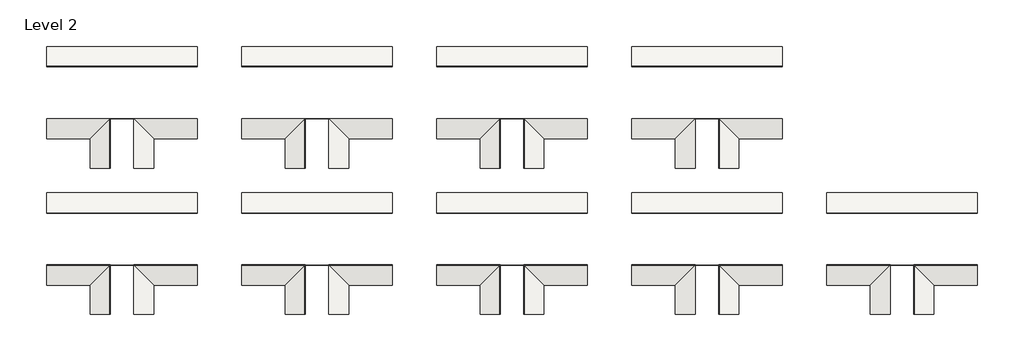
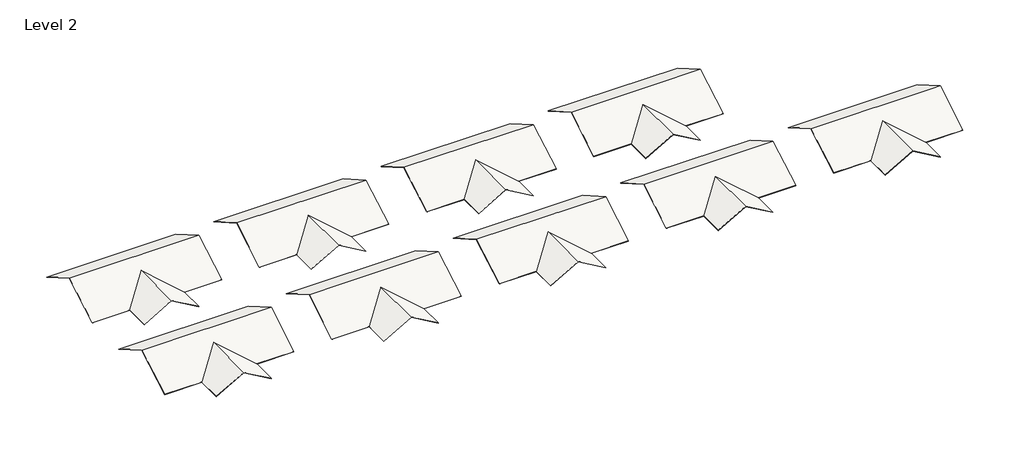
# One storey, incomplete: 9 roofs.
"""IFC4 building model written with IfcOpenShell, lengths in millimetres."""

import ifcopenshell
import ifcopenshell.guid

model = None  # the IFC model being written
_history = None  # IfcOwnerHistory: only IFC2X3 demands one
_inside = {}  # id of a spatial element -> (the spatial element, [elements in it])
_under = {}  # id of a project, library or spatial element -> (it, [spatial elements below it])
_declared = {}  # id of a project -> (the project, [libraries it declares])
_typed = {}  # id of a type object -> (the type object, [elements of that type])
_made_of = {}  # id of a material, layer set ... -> (it, [elements and type objects made of it])


def new_model(schema):
    """Start an empty IFC model of exactly this schema.

    Asked for "IFC4X3", IfcOpenShell would pick the latest addendum, in which some entities
    have other attributes; the version numbers below select the first issue.
    IFC2X3 requires an IfcOwnerHistory on every rooted entity: one is made here for all.
    """
    global model, _history
    if schema == "IFC4X3":
        model = ifcopenshell.file(schema_version=(4, 3, 0, 0))
    else:
        model = ifcopenshell.file(schema=schema)
    _inside.clear()
    _under.clear()
    _declared.clear()
    _typed.clear()
    _made_of.clear()
    _history = None
    if model.schema == "IFC2X3":
        org = make("IfcOrganization", Name="unknown")
        user = make(
            "IfcPersonAndOrganization",
            ThePerson=make("IfcPerson", FamilyName="unknown"),
            TheOrganization=org,
        )
        app = make(
            "IfcApplication",
            ApplicationDeveloper=org,
            Version="unknown",
            ApplicationFullName="unknown",
            ApplicationIdentifier="unknown",
        )
        _history = make(
            "IfcOwnerHistory",
            OwningUser=user,
            OwningApplication=app,
            ChangeAction="ADDED",
            CreationDate=0,
        )
    return model


def make(cls, **values):
    """One entity of the class cls with the attributes given. An attribute that is None is left unset."""
    return model.create_entity(
        cls, **{name: value for name, value in values.items() if value is not None}
    )


def rooted(cls, **values):
    """An entity with a GlobalId (a new one), such as an element, a storey or a relation."""
    return make(cls, GlobalId=ifcopenshell.guid.new(), OwnerHistory=_history, **values)


def si_unit(unit_type, name, prefix=None):
    """IfcSIUnit, for example si_unit("LENGTHUNIT", "METRE", prefix="MILLI")."""
    return make("IfcSIUnit", UnitType=unit_type, Prefix=prefix, Name=name)


def assignment(units):
    """IfcUnitAssignment: the units of a project."""
    return None if units is None else make("IfcUnitAssignment", Units=units)


def point(xyz):
    """IfcCartesianPoint."""
    return None if xyz is None else make("IfcCartesianPoint", Coordinates=xyz)


def direction(xyz):
    """IfcDirection."""
    return None if xyz is None else make("IfcDirection", DirectionRatios=xyz)


def frame(location, z_axis=None, x_axis=None):
    """IfcAxis2Placement3D, a coordinate frame: its origin and axes. An axis left out is left unset."""
    return make(
        "IfcAxis2Placement3D",
        Location=point(location),
        Axis=direction(z_axis),
        RefDirection=direction(x_axis),
    )


def origin():
    """The frame at (0, 0, 0) with its axes left unset."""
    return frame((0.0, 0.0, 0.0))


def place(relative_to, where):
    """IfcLocalPlacement: puts the frame where relative to a parent placement (None: the world)."""
    return make(
        "IfcLocalPlacement", PlacementRelTo=relative_to, RelativePlacement=where
    )


def context(
    kind, dimensions, precision=None, world=None, true_north=None, identifier=None
):
    """IfcGeometricRepresentationContext, for example the 3D "Model" context."""
    return make(
        "IfcGeometricRepresentationContext",
        ContextIdentifier=identifier,
        ContextType=kind,
        CoordinateSpaceDimension=dimensions,
        Precision=precision,
        WorldCoordinateSystem=world,
        TrueNorth=true_north,
    )


def project(units=None, contexts=None):
    """IfcProject with its units and contexts."""
    return rooted(
        "IfcProject",
        Name="project",
        RepresentationContexts=contexts,
        UnitsInContext=assignment(units),
    )


def spatial(cls, under=None, at=None, **own):
    """A site, building, storey or space (cls), placed at a placement, below another one or the project."""
    s = rooted(cls, ObjectPlacement=at, **own)
    if under is not None:
        _under.setdefault(under.id(), (under, []))[1].append(s)
    return s


def faces_of(points, faces, orient=None, outer=None):
    """IfcFace entities. A face is a list of loops; a loop is a list of indices into points, from 0.

    orient and outer hold one flag for each loop. By default every Orientation is true, the
    first loop of a face is its IfcFaceOuterBound and the others are IfcFaceBound.
    """
    made = []
    for i, loops in enumerate(faces):
        bounds = []
        for j, loop in enumerate(loops):
            is_outer = j == 0 if outer is None else outer[i][j]
            bounds.append(
                make(
                    "IfcFaceOuterBound" if is_outer else "IfcFaceBound",
                    Bound=make("IfcPolyLoop", Polygon=[points[k] for k in loop]),
                    Orientation=True if orient is None else orient[i][j],
                )
            )
        made.append(make("IfcFace", Bounds=bounds))
    return made


def faceted_brep(points, faces, orient=None, outer=None, voids=None):
    """IfcFacetedBrep: a solid bounded by flat faces; with voids (closed shells), ...WithVoids."""
    shared = [point(p) for p in points]
    hull = make("IfcClosedShell", CfsFaces=faces_of(shared, faces, orient, outer))
    if voids is None:
        return make("IfcFacetedBrep", Outer=hull)
    return make(
        "IfcFacetedBrepWithVoids",
        Outer=hull,
        Voids=[
            make(cls, CfsFaces=faces_of(shared, fs, o, b)) for cls, fs, o, b in voids
        ],
    )


def shape(context_of_items, identifier, shape_type, items):
    """IfcShapeRepresentation: the items that make up one representation, for example the "Body"."""
    return make(
        "IfcShapeRepresentation",
        ContextOfItems=context_of_items,
        RepresentationIdentifier=identifier,
        RepresentationType=shape_type,
        Items=items,
    )


def made_of(thing, what):
    """Note that an element or type object is made of a material, layer set ...; save() writes the relation."""
    if what is not None:
        _made_of.setdefault(what.id(), (what, []))[1].append(thing)
    return thing


def element(
    cls,
    number,
    at=None,
    inside=None,
    cuts=None,
    type_object=None,
    material=None,
    context=None,
    identifier="Body",
    shape_type=None,
    held_by="IfcProductDefinitionShape",
    body=None,
    shapes=None,
    **own,
):
    """One element of the class cls, such as IfcWall. Its Tag is "e" and its number.

    at: its placement. inside: the storey or other place that contains it. cuts: it is an
    opening in that element (IfcRelVoidsElement). A single representation is given by context,
    identifier, shape_type and body (its items); several are given by shapes. held_by: the class
    of the entity that holds the representations. save() writes the other relations.
    """
    e = rooted(cls, Tag="e%d" % number, ObjectPlacement=at, **own)
    if body is not None:
        shapes = [shape(context, identifier, shape_type, body)]
    if shapes is not None:
        e.Representation = make(held_by, Representations=shapes)
    if inside is not None:
        _inside.setdefault(inside.id(), (inside, []))[1].append(e)
    if cuts is not None:
        rooted(
            "IfcRelVoidsElement", RelatingBuildingElement=cuts, RelatedOpeningElement=e
        )
    if type_object is not None:
        _typed.setdefault(type_object.id(), (type_object, []))[1].append(e)
    return made_of(e, material)


def aggregate(whole, parts):
    """IfcRelAggregates: a whole, such as a stair, and the parts it consists of."""
    return rooted("IfcRelAggregates", RelatingObject=whole, RelatedObjects=parts)


def save(model, path):
    """Write the relations noted so far, then the file.

    IfcRelAggregates (storeys below a building ...), IfcRelContainedInSpatialStructure (elements
    in a storey), IfcRelDefinesByType, IfcRelAssociatesMaterial and IfcRelDeclares: one each for
    every whole, place, type object, material and project.
    """
    for whole, parts in _under.values():
        aggregate(whole, parts)
    for where, things in _inside.values():
        rooted(
            "IfcRelContainedInSpatialStructure",
            RelatedElements=things,
            RelatingStructure=where,
        )
    for kind, things in _typed.values():
        rooted("IfcRelDefinesByType", RelatedObjects=things, RelatingType=kind)
    for what, things in _made_of.values():
        rooted("IfcRelAssociatesMaterial", RelatedObjects=things, RelatingMaterial=what)
    for by, libraries in _declared.values():
        rooted("IfcRelDeclares", RelatingContext=by, RelatedDefinitions=libraries)
    model.write(path)


model = new_model("IFC4")

# Units and contexts
model_context = context("Model", 3, world=origin())
ifc_project = project(units=[si_unit("LENGTHUNIT", "METRE", prefix="MILLI")], contexts=[model_context])

# Site, building, storey
site = spatial("IfcSite", under=ifc_project)
building = spatial("IfcBuilding", under=site)
storey = spatial("IfcBuildingStorey", under=building, Name="Level 2", Elevation=4000.0)

# Roofs
placement = place(None, origin())
element("IfcRoof", 1, ObjectType="PREFA Roof Tile - 01 P.10 Brown", at=placement, inside=storey, context=model_context, shape_type="Brep", body=[
    faceted_brep([(-27036.2332588, 245.4798849, 6730.8667733), (-27036.2332588, 4975.4798849, 4000.0), (-11576.2332588, 4975.4798849, 4000.0), (-11576.2332588, 245.4798849, 6730.8667733), (-27036.2332588, -4484.5201151, 4000.0), (-11576.2332588, -4484.5201151, 4000.0), (-16036.2332588, -4484.5201151, 4000.0), (-19306.2332588, -1214.5201151, 5887.9353802), (-22576.2332588, -4484.5201151, 4000.0), (-27036.2332588, 4975.4798849, 4023.0940108), (-27036.2332588, 245.4798849, 6753.960784), (-11576.2332588, 245.4798849, 6753.960784), (-11576.2332588, 4975.4798849, 4023.0940108), (-27036.2332588, -4484.5201151, 4023.0940108), (-22576.2332588, -4484.5201151, 4023.0940108), (-19306.2332588, -1214.5201151, 5911.029391), (-16036.2332588, -4484.5201151, 4023.0940108), (-11576.2332588, -4484.5201151, 4023.0940108), (-22576.2332588, -7484.5201151, 4000.0), (-19306.2332588, -7484.5201151, 5887.9353802), (-16036.2332588, -7484.5201151, 4000.0), (-22576.2332588, -7484.5201151, 4023.0940108), (-19306.2332588, -7484.5201151, 5911.029391), (-16036.2332588, -7484.5201151, 4023.0940108)], [[[0, 1, 2, 3]], [[4, 0, 3, 5, 6, 7, 8]], [[9, 10, 11, 12]], [[13, 14, 15, 16, 17, 11, 10]], [[5, 17, 16, 6]], [[1, 9, 12, 2]], [[12, 11, 17, 5, 3, 2]], [[18, 8, 7, 19]], [[6, 20, 19, 7]], [[14, 21, 22, 15]], [[23, 16, 15, 22]], [[8, 14, 13, 4]], [[18, 21, 14, 8]], [[6, 16, 23, 20]], [[13, 10, 9, 1, 0, 4]], [[23, 22, 21, 18, 19, 20]]]),
])
element("IfcRoof", 2, ObjectType="PREFA Roof Tile - 02 P.10 Anthracite", at=placement, inside=storey, context=model_context, shape_type="Brep", body=[
    faceted_brep([(-7036.2332588, 245.4798849, 6730.8667733), (-7036.2332588, 4975.4798849, 4000.0), (8423.7667412, 4975.4798849, 4000.0), (8423.7667412, 245.4798849, 6730.8667733), (-7036.2332588, -4484.5201151, 4000.0), (8423.7667412, -4484.5201151, 4000.0), (3963.7667412, -4484.5201151, 4000.0), (693.7667412, -1214.5201151, 5887.9353802), (-2576.2332588, -4484.5201151, 4000.0), (-7036.2332588, 4975.4798849, 4023.0940108), (-7036.2332588, 245.4798849, 6753.960784), (8423.7667412, 245.4798849, 6753.960784), (8423.7667412, 4975.4798849, 4023.0940108), (-7036.2332588, -4484.5201151, 4023.0940108), (-2576.2332588, -4484.5201151, 4023.0940108), (693.7667412, -1214.5201151, 5911.029391), (3963.7667412, -4484.5201151, 4023.0940108), (8423.7667412, -4484.5201151, 4023.0940108), (-2576.2332588, -7484.5201151, 4000.0), (693.7667412, -7484.5201151, 5887.9353802), (3963.7667412, -7484.5201151, 4000.0), (-2576.2332588, -7484.5201151, 4023.0940108), (693.7667412, -7484.5201151, 5911.029391), (3963.7667412, -7484.5201151, 4023.0940108)], [[[0, 1, 2, 3]], [[4, 0, 3, 5, 6, 7, 8]], [[9, 10, 11, 12]], [[13, 14, 15, 16, 17, 11, 10]], [[5, 17, 16, 6]], [[1, 9, 12, 2]], [[12, 11, 17, 5, 3, 2]], [[18, 8, 7, 19]], [[6, 20, 19, 7]], [[14, 21, 22, 15]], [[23, 16, 15, 22]], [[8, 14, 13, 4]], [[18, 21, 14, 8]], [[6, 16, 23, 20]], [[13, 10, 9, 1, 0, 4]], [[23, 22, 21, 18, 19, 20]]]),
])
element("IfcRoof", 3, ObjectType="PREFA Roof Tile - 03 P.10 Black", at=placement, inside=storey, context=model_context, shape_type="Brep", body=[
    faceted_brep([(12963.7667412, 245.4798849, 6730.8667733), (12963.7667412, 4975.4798849, 4000.0), (28423.7667412, 4975.4798849, 4000.0), (28423.7667412, 245.4798849, 6730.8667733), (12963.7667412, -4484.5201151, 4000.0), (28423.7667412, -4484.5201151, 4000.0), (23963.7667412, -4484.5201151, 4000.0), (20693.7667412, -1214.5201151, 5887.9353802), (17423.7667412, -4484.5201151, 4000.0), (12963.7667412, 4975.4798849, 4023.0940108), (12963.7667412, 245.4798849, 6753.960784), (28423.7667412, 245.4798849, 6753.960784), (28423.7667412, 4975.4798849, 4023.0940108), (12963.7667412, -4484.5201151, 4023.0940108), (17423.7667412, -4484.5201151, 4023.0940108), (20693.7667412, -1214.5201151, 5911.029391), (23963.7667412, -4484.5201151, 4023.0940108), (28423.7667412, -4484.5201151, 4023.0940108), (17423.7667412, -7484.5201151, 4000.0), (20693.7667412, -7484.5201151, 5887.9353802), (23963.7667412, -7484.5201151, 4000.0), (17423.7667412, -7484.5201151, 4023.0940108), (20693.7667412, -7484.5201151, 5911.029391), (23963.7667412, -7484.5201151, 4023.0940108)], [[[0, 1, 2, 3]], [[4, 0, 3, 5, 6, 7, 8]], [[9, 10, 11, 12]], [[13, 14, 15, 16, 17, 11, 10]], [[5, 17, 16, 6]], [[1, 9, 12, 2]], [[12, 11, 17, 5, 3, 2]], [[18, 8, 7, 19]], [[6, 20, 19, 7]], [[14, 21, 22, 15]], [[23, 16, 15, 22]], [[8, 14, 13, 4]], [[18, 21, 14, 8]], [[6, 16, 23, 20]], [[13, 10, 9, 1, 0, 4]], [[23, 22, 21, 18, 19, 20]]]),
])
element("IfcRoof", 4, ObjectType="PREFA Roof Tile - 04 P.10 Brick Red", at=placement, inside=storey, context=model_context, shape_type="Brep", body=[
    faceted_brep([(32963.7667412, 245.4798849, 6730.8667733), (32963.7667412, 4975.4798849, 4000.0), (48423.7667412, 4975.4798849, 4000.0), (48423.7667412, 245.4798849, 6730.8667733), (32963.7667412, -4484.5201151, 4000.0), (48423.7667412, -4484.5201151, 4000.0), (43963.7667412, -4484.5201151, 4000.0), (40693.7667412, -1214.5201151, 5887.9353802), (37423.7667412, -4484.5201151, 4000.0), (32963.7667412, 4975.4798849, 4023.0940108), (32963.7667412, 245.4798849, 6753.960784), (48423.7667412, 245.4798849, 6753.960784), (48423.7667412, 4975.4798849, 4023.0940108), (32963.7667412, -4484.5201151, 4023.0940108), (37423.7667412, -4484.5201151, 4023.0940108), (40693.7667412, -1214.5201151, 5911.029391), (43963.7667412, -4484.5201151, 4023.0940108), (48423.7667412, -4484.5201151, 4023.0940108), (37423.7667412, -7484.5201151, 4000.0), (40693.7667412, -7484.5201151, 5887.9353802), (43963.7667412, -7484.5201151, 4000.0), (37423.7667412, -7484.5201151, 4023.0940108), (40693.7667412, -7484.5201151, 5911.029391), (43963.7667412, -7484.5201151, 4023.0940108)], [[[0, 1, 2, 3]], [[4, 0, 3, 5, 6, 7, 8]], [[9, 10, 11, 12]], [[13, 14, 15, 16, 17, 11, 10]], [[5, 17, 16, 6]], [[1, 9, 12, 2]], [[12, 11, 17, 5, 3, 2]], [[18, 8, 7, 19]], [[6, 20, 19, 7]], [[14, 21, 22, 15]], [[23, 16, 15, 22]], [[8, 14, 13, 4]], [[18, 21, 14, 8]], [[6, 16, 23, 20]], [[13, 10, 9, 1, 0, 4]], [[23, 22, 21, 18, 19, 20]]]),
])
element("IfcRoof", 5, ObjectType="PREFA Roof Tile - 05 P.10 Oxide Red", at=placement, inside=storey, context=model_context, shape_type="Brep", body=[
    faceted_brep([(52963.7667412, 245.4798849, 6730.8667733), (52963.7667412, 4975.4798849, 4000.0), (68423.7667412, 4975.4798849, 4000.0), (68423.7667412, 245.4798849, 6730.8667733), (52963.7667412, -4484.5201151, 4000.0), (68423.7667412, -4484.5201151, 4000.0), (63963.7667412, -4484.5201151, 4000.0), (60693.7667412, -1214.5201151, 5887.9353802), (57423.7667412, -4484.5201151, 4000.0), (52963.7667412, 4975.4798849, 4023.0940108), (52963.7667412, 245.4798849, 6753.960784), (68423.7667412, 245.4798849, 6753.960784), (68423.7667412, 4975.4798849, 4023.0940108), (52963.7667412, -4484.5201151, 4023.0940108), (57423.7667412, -4484.5201151, 4023.0940108), (60693.7667412, -1214.5201151, 5911.029391), (63963.7667412, -4484.5201151, 4023.0940108), (68423.7667412, -4484.5201151, 4023.0940108), (57423.7667412, -7484.5201151, 4000.0), (60693.7667412, -7484.5201151, 5887.9353802), (63963.7667412, -7484.5201151, 4000.0), (57423.7667412, -7484.5201151, 4023.0940108), (60693.7667412, -7484.5201151, 5911.029391), (63963.7667412, -7484.5201151, 4023.0940108)], [[[0, 1, 2, 3]], [[4, 0, 3, 5, 6, 7, 8]], [[9, 10, 11, 12]], [[13, 14, 15, 16, 17, 11, 10]], [[5, 17, 16, 6]], [[1, 9, 12, 2]], [[12, 11, 17, 5, 3, 2]], [[18, 8, 7, 19]], [[6, 20, 19, 7]], [[14, 21, 22, 15]], [[23, 16, 15, 22]], [[8, 14, 13, 4]], [[18, 21, 14, 8]], [[6, 16, 23, 20]], [[13, 10, 9, 1, 0, 4]], [[23, 22, 21, 18, 19, 20]]]),
])
element("IfcRoof", 6, ObjectType="PREFA Roof Tile - 06 P.10 Moss Green", at=placement, inside=storey, context=model_context, shape_type="Brep", body=[
    faceted_brep([(-27036.2332588, 15245.4798849, 6730.8667733), (-27036.2332588, 19975.4798849, 4000.0), (-11576.2332588, 19975.4798849, 4000.0), (-11576.2332588, 15245.4798849, 6730.8667733), (-27036.2332588, 10515.4798849, 4000.0), (-11576.2332588, 10515.4798849, 4000.0), (-16036.2332588, 10515.4798849, 4000.0), (-19306.2332588, 13785.4798849, 5887.9353802), (-22576.2332588, 10515.4798849, 4000.0), (-27036.2332588, 19975.4798849, 4023.0940108), (-27036.2332588, 15245.4798849, 6753.960784), (-11576.2332588, 15245.4798849, 6753.960784), (-11576.2332588, 19975.4798849, 4023.0940108), (-27036.2332588, 10515.4798849, 4023.0940108), (-22576.2332588, 10515.4798849, 4023.0940108), (-19306.2332588, 13785.4798849, 5911.029391), (-16036.2332588, 10515.4798849, 4023.0940108), (-11576.2332588, 10515.4798849, 4023.0940108), (-22576.2332588, 7515.4798849, 4000.0), (-19306.2332588, 7515.4798849, 5887.9353802), (-16036.2332588, 7515.4798849, 4000.0), (-22576.2332588, 7515.4798849, 4023.0940108), (-19306.2332588, 7515.4798849, 5911.029391), (-16036.2332588, 7515.4798849, 4023.0940108)], [[[0, 1, 2, 3]], [[4, 0, 3, 5, 6, 7, 8]], [[9, 10, 11, 12]], [[13, 14, 15, 16, 17, 11, 10]], [[5, 17, 16, 6]], [[1, 9, 12, 2]], [[12, 11, 17, 5, 3, 2]], [[18, 8, 7, 19]], [[6, 20, 19, 7]], [[14, 21, 22, 15]], [[23, 16, 15, 22]], [[8, 14, 13, 4]], [[18, 21, 14, 8]], [[6, 16, 23, 20]], [[13, 10, 9, 1, 0, 4]], [[23, 22, 21, 18, 19, 20]]]),
])
element("IfcRoof", 7, ObjectType="PREFA Roof Tile - 07 P.10 Light Grey", at=placement, inside=storey, context=model_context, shape_type="Brep", body=[
    faceted_brep([(-7036.2332588, 15245.4798849, 6730.8667733), (-7036.2332588, 19975.4798849, 4000.0), (8423.7667412, 19975.4798849, 4000.0), (8423.7667412, 15245.4798849, 6730.8667733), (-7036.2332588, 10515.4798849, 4000.0), (8423.7667412, 10515.4798849, 4000.0), (3963.7667412, 10515.4798849, 4000.0), (693.7667412, 13785.4798849, 5887.9353802), (-2576.2332588, 10515.4798849, 4000.0), (-7036.2332588, 19975.4798849, 4023.0940108), (-7036.2332588, 15245.4798849, 6753.960784), (8423.7667412, 15245.4798849, 6753.960784), (8423.7667412, 19975.4798849, 4023.0940108), (-7036.2332588, 10515.4798849, 4023.0940108), (-2576.2332588, 10515.4798849, 4023.0940108), (693.7667412, 13785.4798849, 5911.029391), (3963.7667412, 10515.4798849, 4023.0940108), (8423.7667412, 10515.4798849, 4023.0940108), (-2576.2332588, 7515.4798849, 4000.0), (693.7667412, 7515.4798849, 5887.9353802), (3963.7667412, 7515.4798849, 4000.0), (-2576.2332588, 7515.4798849, 4023.0940108), (693.7667412, 7515.4798849, 5911.029391), (3963.7667412, 7515.4798849, 4023.0940108)], [[[0, 1, 2, 3]], [[4, 0, 3, 5, 6, 7, 8]], [[9, 10, 11, 12]], [[13, 14, 15, 16, 17, 11, 10]], [[5, 17, 16, 6]], [[1, 9, 12, 2]], [[12, 11, 17, 5, 3, 2]], [[18, 8, 7, 19]], [[6, 20, 19, 7]], [[14, 21, 22, 15]], [[23, 16, 15, 22]], [[8, 14, 13, 4]], [[18, 21, 14, 8]], [[6, 16, 23, 20]], [[13, 10, 9, 1, 0, 4]], [[23, 22, 21, 18, 19, 20]]]),
])
element("IfcRoof", 8, ObjectType="PREFA Roof Tile - 11 P.10 Nut Brown", at=placement, inside=storey, context=model_context, shape_type="Brep", body=[
    faceted_brep([(12963.7667412, 15245.4798849, 6730.8667733), (12963.7667412, 19975.4798849, 4000.0), (28423.7667412, 19975.4798849, 4000.0), (28423.7667412, 15245.4798849, 6730.8667733), (12963.7667412, 10515.4798849, 4000.0), (28423.7667412, 10515.4798849, 4000.0), (23963.7667412, 10515.4798849, 4000.0), (20693.7667412, 13785.4798849, 5887.9353802), (17423.7667412, 10515.4798849, 4000.0), (12963.7667412, 19975.4798849, 4023.0940108), (12963.7667412, 15245.4798849, 6753.960784), (28423.7667412, 15245.4798849, 6753.960784), (28423.7667412, 19975.4798849, 4023.0940108), (12963.7667412, 10515.4798849, 4023.0940108), (17423.7667412, 10515.4798849, 4023.0940108), (20693.7667412, 13785.4798849, 5911.029391), (23963.7667412, 10515.4798849, 4023.0940108), (28423.7667412, 10515.4798849, 4023.0940108), (17423.7667412, 7515.4798849, 4000.0), (20693.7667412, 7515.4798849, 5887.9353802), (23963.7667412, 7515.4798849, 4000.0), (17423.7667412, 7515.4798849, 4023.0940108), (20693.7667412, 7515.4798849, 5911.029391), (23963.7667412, 7515.4798849, 4023.0940108)], [[[0, 1, 2, 3]], [[4, 0, 3, 5, 6, 7, 8]], [[9, 10, 11, 12]], [[13, 14, 15, 16, 17, 11, 10]], [[5, 17, 16, 6]], [[1, 9, 12, 2]], [[12, 11, 17, 5, 3, 2]], [[18, 8, 7, 19]], [[6, 20, 19, 7]], [[14, 21, 22, 15]], [[23, 16, 15, 22]], [[8, 14, 13, 4]], [[18, 21, 14, 8]], [[6, 16, 23, 20]], [[13, 10, 9, 1, 0, 4]], [[23, 22, 21, 18, 19, 20]]]),
])
element("IfcRoof", 9, ObjectType="PREFA Roof Tile - 43 P.10 Stone Grey", at=placement, inside=storey, context=model_context, shape_type="Brep", body=[
    faceted_brep([(32963.7667412, 15245.4798849, 6730.8667733), (32963.7667412, 19975.4798849, 4000.0), (48423.7667412, 19975.4798849, 4000.0), (48423.7667412, 15245.4798849, 6730.8667733), (32963.7667412, 10515.4798849, 4000.0), (48423.7667412, 10515.4798849, 4000.0), (43963.7667412, 10515.4798849, 4000.0), (40693.7667412, 13785.4798849, 5887.9353802), (37423.7667412, 10515.4798849, 4000.0), (32963.7667412, 19975.4798849, 4023.0940108), (32963.7667412, 15245.4798849, 6753.960784), (48423.7667412, 15245.4798849, 6753.960784), (48423.7667412, 19975.4798849, 4023.0940108), (32963.7667412, 10515.4798849, 4023.0940108), (37423.7667412, 10515.4798849, 4023.0940108), (40693.7667412, 13785.4798849, 5911.029391), (43963.7667412, 10515.4798849, 4023.0940108), (48423.7667412, 10515.4798849, 4023.0940108), (37423.7667412, 7515.4798849, 4000.0), (40693.7667412, 7515.4798849, 5887.9353802), (43963.7667412, 7515.4798849, 4000.0), (37423.7667412, 7515.4798849, 4023.0940108), (40693.7667412, 7515.4798849, 5911.029391), (43963.7667412, 7515.4798849, 4023.0940108)], [[[0, 1, 2, 3]], [[4, 0, 3, 5, 6, 7, 8]], [[9, 10, 11, 12]], [[13, 14, 15, 16, 17, 11, 10]], [[5, 17, 16, 6]], [[1, 9, 12, 2]], [[12, 11, 17, 5, 3, 2]], [[18, 8, 7, 19]], [[6, 20, 19, 7]], [[14, 21, 22, 15]], [[23, 16, 15, 22]], [[8, 14, 13, 4]], [[18, 21, 14, 8]], [[6, 16, 23, 20]], [[13, 10, 9, 1, 0, 4]], [[23, 22, 21, 18, 19, 20]]]),
])

save(model, "model.ifc")
